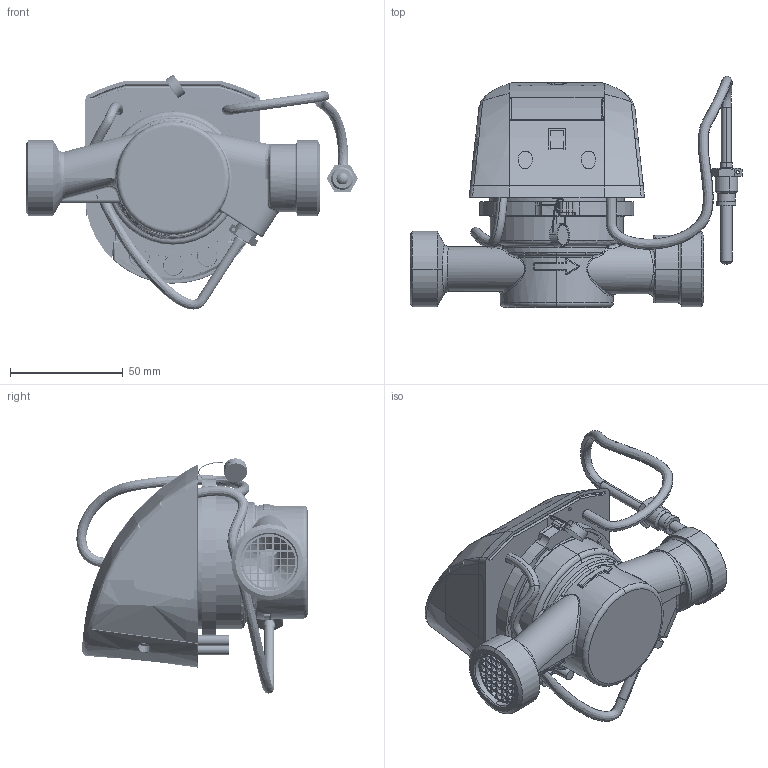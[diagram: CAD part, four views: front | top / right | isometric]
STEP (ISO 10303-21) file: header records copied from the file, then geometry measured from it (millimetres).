
FILE_DESCRIPTION (( 'STEP AP214' ), '1' );
FILE_NAME ('ELF2-JS90-1,5-G1-TI.STEP', '2025-08-01T14:19:13', ( '' ), ( '' ), 'SwSTEP 2.0', 'SolidWorks 2019', '' );
FILE_SCHEMA (( 'AUTOMOTIVE_DESIGN' ));
Length unit declared in the file: millimetre
Products named in the file (1): ELF2-JS90-1,5-G1-TI
Bounding box: 146.94 x 102.28 x 104.04 mm (x, y, z)
Surface area: 149309.1 mm2 (no closed solid volume)
Topology: 0 solids, 44 shells, 4865 faces, 12670 edges, 7961 vertices
Faces by surface type: plane 2008, bspline 899, cylinder 689, cone 689, torus 394, sphere 186
Entity records: 258123 total; most frequent: CARTESIAN_POINT 96040, ORIENTED_EDGE 25094, DIRECTION 18646, EDGE_CURVE 12548, VERTEX_POINT 7950, AXIS2_PLACEMENT_3D 6767, EDGE_LOOP 5307, LINE 5112
